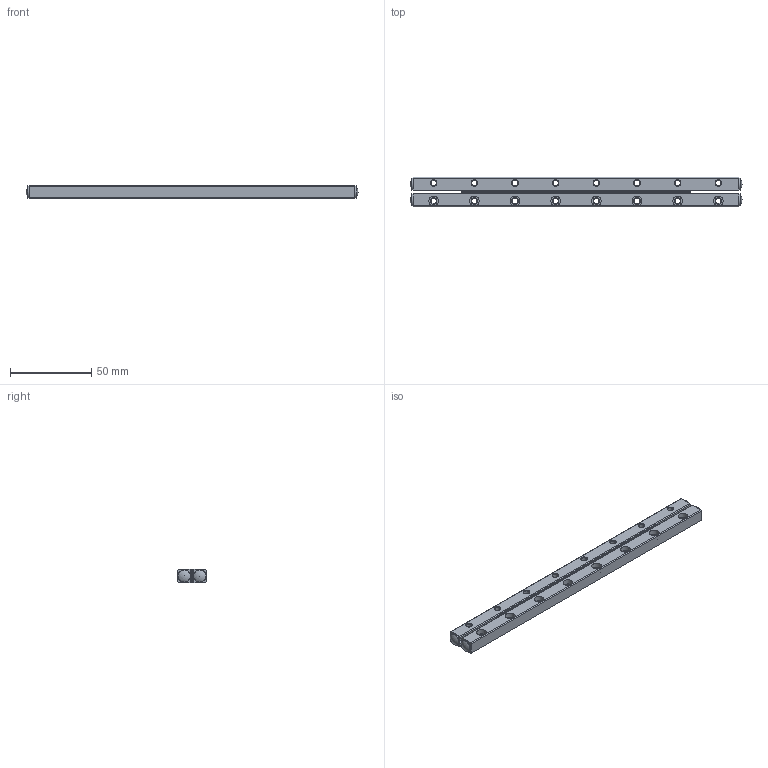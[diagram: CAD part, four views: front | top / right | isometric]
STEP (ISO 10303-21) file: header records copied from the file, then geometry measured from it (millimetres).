
FILE_DESCRIPTION(/* description */ ('Unknown'),/* implementation_level */ '2;1');
FILE_NAME(/* name */ 'VR3-200x28Z',/* time_stamp */ '2025-06-12T09:16:10+08:00',/* author */ ('Unknown'),/* organization */ ('Unknown'),/* preprocessor_version */ 'ST-DEVELOPER v18.102',/* originating_system */ 'Solid Edge',/* authorisation */ 'Unknown');
FILE_SCHEMA (('AUTOMOTIVE_DESIGN {1 0 10303 214 3 1 1}'));
Length unit declared in the file: millimetre
Products named in the file (4): VR3-200x28Z; VR3-200_28Z Roller guide; VR3-200_28Z Roller cage; VR3-200_28Z Roller guide; Top
Assembly tree (3 placements, depth 2):
  VR3-200x28Z
    VR3-200_28Z Roller guide
    VR3-200_28Z Roller cage
    VR3-200_28Z Roller guide; Top
Bounding box: 204 x 18 x 8 mm (x, y, z)
Volume: 24604.2 mm3; surface area: 17734.7 mm2
Topology: 3 solids, 3 shells, 436 faces, 1158 edges, 740 vertices
Faces by surface type: plane 280, cone 92, cylinder 60, torus 4
Full cylindrical faces by diameter (mm): 3 x28, 3.3 x16, 6 x16
Entity records: 12963 total; most frequent: DIRECTION 2202, CARTESIAN_POINT 2162, ORIENTED_EDGE 1980, EDGE_CURVE 990, AXIS2_PLACEMENT_3D 772, FACE_BOUND 752, EDGE_LOOP 748, VERTEX_POINT 732
